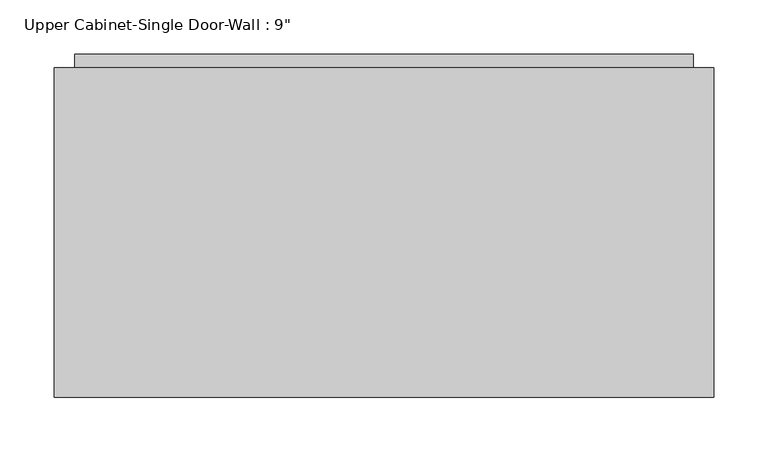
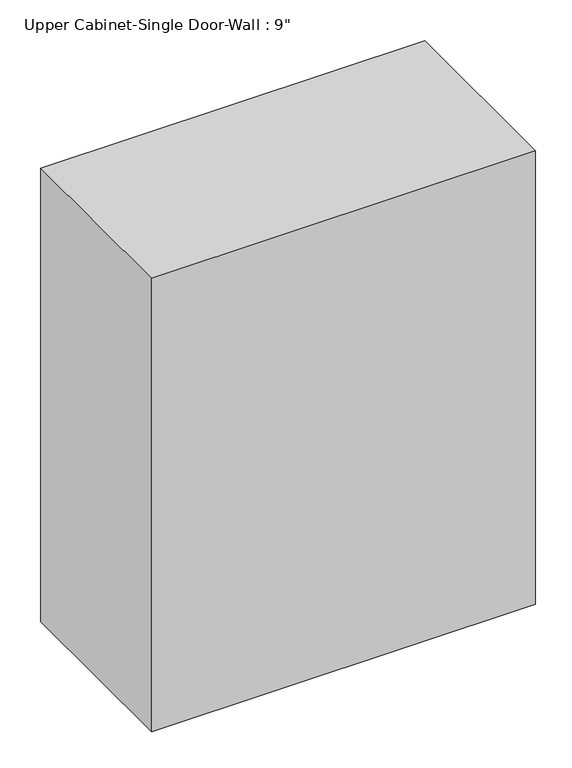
"""IFC4 building model written with IfcOpenShell, lengths in millimetres: furniture geometry."""

from ifc_helpers import new_model, si_unit, frame, origin, place, context, project, spatial, polyline, outline, extrude, faceted_brep, source, transform, mapped, element, save


def furniture_aa3ecf69(model_context):
    return source(origin(), model_context, "Body", "SolidModel", [
        faceted_brep([(-352.0014751, 57.15, 2133.6), (-352.0014751, 57.15, 1371.6), (258.3711628, 57.15, 1371.6), (258.3711628, 57.15, 2133.6), (-352.0014751, 361.95, 2133.6), (258.3711628, 361.95, 2133.6), (258.3711628, 361.95, 1371.6), (-352.0014751, 361.95, 1371.6), (-332.9514751, 361.95, 2114.55), (-332.9514751, 361.95, 1390.65), (239.3211628, 361.95, 1390.65), (239.3211628, 361.95, 2114.55), (239.3211628, 76.2, 2114.55), (-332.9514751, 76.2, 2114.55), (239.3211628, 76.2, 1390.65), (-332.9514751, 76.2, 1390.65)], [[[0, 1, 2, 3]], [[4, 5, 6, 7], [8, 9, 10, 11]], [[1, 0, 4, 7]], [[2, 1, 7, 6]], [[3, 2, 6, 5]], [[0, 3, 5, 4]], [[8, 11, 12, 13]], [[11, 10, 14, 12]], [[10, 9, 15, 14]], [[9, 8, 13, 15]], [[13, 12, 14, 15]]]),
        extrude(outline(polyline([(-332.9514751, 374.65), (239.3211628, 374.65), (239.3211628, 342.9), (-332.9514751, 342.9), (-332.9514751, 374.65)])), frame((0.0, 0.0, 1390.65), z_axis=(0.0, 0.0, 1.0), x_axis=(1.0, 0.0, 0.0)), (0.0, 0.0, 1.0), 723.9),
    ])


if __name__ == "__main__":
    model = new_model("IFC4")
    model_context = context("Model", 3, world=origin())
    ifc_project = project(units=[si_unit("LENGTHUNIT", "METRE", prefix="MILLI")], contexts=[model_context])
    site = spatial("IfcSite", under=ifc_project)
    building = spatial("IfcBuilding", under=site)
    placement = place(None, origin())
    furniture_shape = furniture_aa3ecf69(model_context)
    element("IfcFurniture", 1, ObjectType="Upper Cabinet-Single Door-Wall : 9\"", at=placement, inside=building, context=model_context, shape_type="MappedRepresentation", body=[
        mapped(furniture_shape, transform((0.0, 0.0, 0.0), x_axis=(1.0, 0.0, 0.0), y_axis=(0.0, 1.0, 0.0), z_axis=(0.0, 0.0, 1.0))),
    ])
    save(model, "model.ifc")
